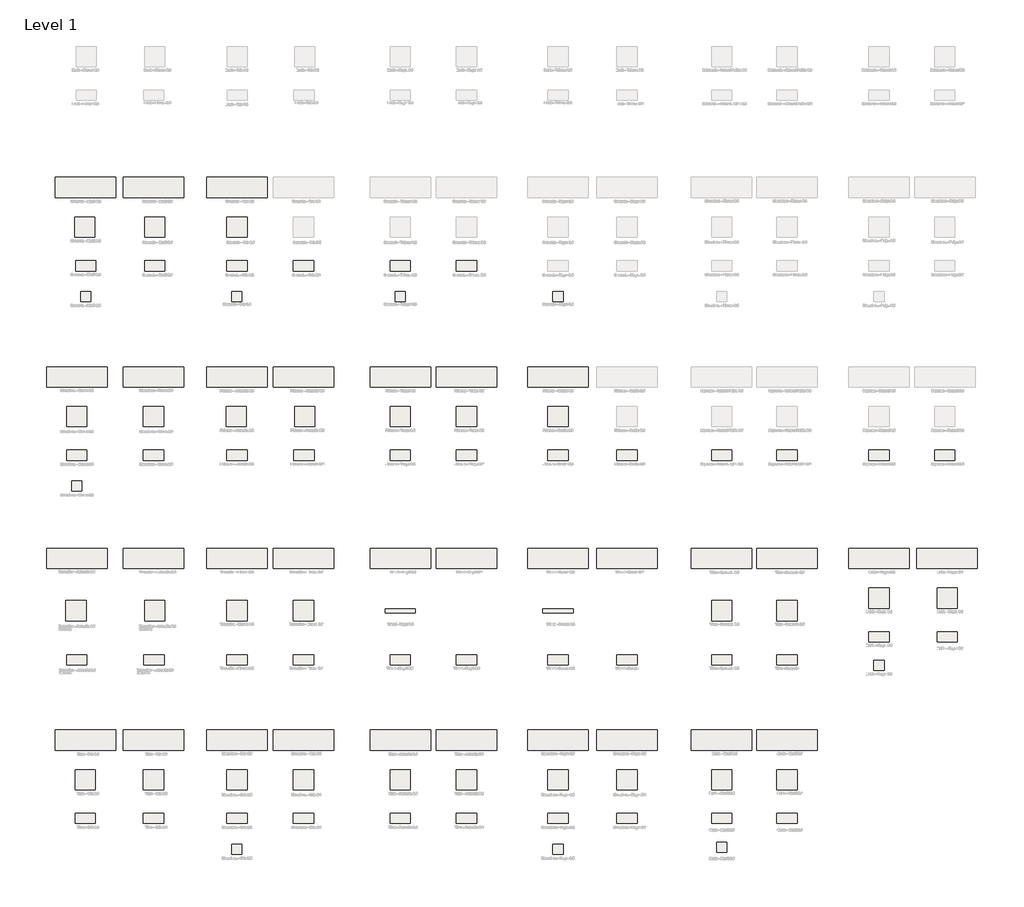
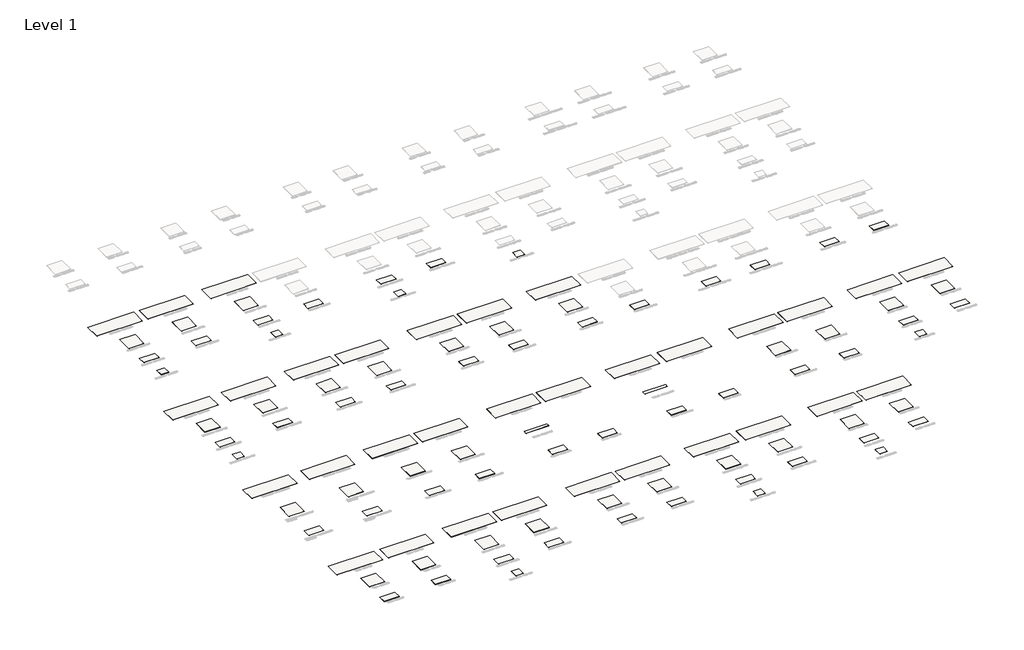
# One storey, part 1 of 80: 111 slabs.
"""IFC4 building model written with IfcOpenShell, lengths in millimetres."""

from ifc_helpers import new_model, si_unit, frame, origin, place, context, project, spatial, polyline, outline, extrude, element, save

model = new_model("IFC4")

# Units and contexts
model_context = context("Model", 3, world=origin())
ifc_project = project(units=[si_unit("LENGTHUNIT", "METRE", prefix="MILLI")], contexts=[model_context])

# Site, building, storey
site = spatial("IfcSite", under=ifc_project)
building = spatial("IfcBuilding", under=site)
storey = spatial("IfcBuildingStorey", under=building, Name="Level 1", Elevation=0.0)

# Slabs
placement = place(None, origin())
element("IfcSlab", 1, ObjectType="100x300 Coverlam_Concrete Marfil 5.6", at=placement, inside=storey, context=model_context, shape_type="SweptSolid", body=[
    extrude(outline(polyline([(-24145.5376464, 11990.4715713), (-21145.5376464, 11990.4715713), (-21145.5376464, 10990.4715713), (-24145.5376464, 10990.4715713), (-24145.5376464, 11990.4715713)])), frame((0.0, 0.0, -5.6), z_axis=(0.0, 0.0, 1.0), x_axis=(1.0, 0.0, 0.0)), (0.0, 0.0, 1.0), 5.6),
])
element("IfcSlab", 2, ObjectType="100x100 Coverlam_Concrete Marfil 5.6", at=placement, inside=storey, context=model_context, shape_type="SweptSolid", body=[
    extrude(outline(polyline([(-23083.4563631, 10025.1445285), (-22083.4563631, 10025.1445285), (-22083.4563631, 9025.1445285), (-23083.4563631, 9025.1445285), (-23083.4563631, 10025.1445285)])), frame((0.0, 0.0, -5.6), z_axis=(0.0, 0.0, 1.0), x_axis=(1.0, 0.0, 0.0)), (0.0, 0.0, 1.0), 5.6),
])
element("IfcSlab", 3, ObjectType="50x100 Coverlam_Concrete Marfil 5.6", at=placement, inside=storey, context=model_context, shape_type="SweptSolid", body=[
    extrude(outline(polyline([(-23083.4563631, 7853.9377666), (-22083.4563631, 7853.9377666), (-22083.4563631, 7353.9377666), (-23083.4563631, 7353.9377666), (-23083.4563631, 7853.9377666)])), frame((0.0, 0.0, -5.6), z_axis=(0.0, 0.0, 1.0), x_axis=(1.0, 0.0, 0.0)), (0.0, 0.0, 1.0), 5.6),
])
element("IfcSlab", 4, ObjectType="100x300 Coverlam_Pirineos Antracita 5.6", at=placement, inside=storey, context=model_context, shape_type="SweptSolid", body=[
    extrude(outline(polyline([(-16705.5376464, 2590.4715713), (-13705.5376464, 2590.4715713), (-13705.5376464, 1590.4715713), (-16705.5376464, 1590.4715713), (-16705.5376464, 2590.4715713)])), frame((0.0, 0.0, -5.6), z_axis=(0.0, 0.0, 1.0), x_axis=(1.0, 0.0, 0.0)), (0.0, 0.0, 1.0), 5.6),
])
element("IfcSlab", 5, ObjectType="100x100 Coverlam_Pirineos Antracita 5.6", at=placement, inside=storey, context=model_context, shape_type="SweptSolid", body=[
    extrude(outline(polyline([(-15643.4563631, 625.1445285), (-14643.4563631, 625.1445285), (-14643.4563631, -374.8554715), (-15643.4563631, -374.8554715), (-15643.4563631, 625.1445285)])), frame((0.0, 0.0, -3.5), z_axis=(0.0, 0.0, 1.0), x_axis=(1.0, 0.0, 0.0)), (0.0, 0.0, 1.0), 3.5),
])
element("IfcSlab", 6, ObjectType="50x100 Coverlam_Pirineos Antracita 5.6", at=placement, inside=storey, context=model_context, shape_type="SweptSolid", body=[
    extrude(outline(polyline([(-15683.4563631, -1546.0622334), (-14683.4563631, -1546.0622334), (-14683.4563631, -2046.0622334), (-15683.4563631, -2046.0622334), (-15683.4563631, -1546.0622334)])), frame((0.0, 0.0, -5.6), z_axis=(0.0, 0.0, 1.0), x_axis=(1.0, 0.0, 0.0)), (0.0, 0.0, 1.0), 5.6),
])
element("IfcSlab", 7, ObjectType="100x300 Coverlam_Travertino Antracita 5.6", at=placement, inside=storey, context=model_context, shape_type="SweptSolid", body=[
    extrude(outline(polyline([(-24145.5376464, -6419.6154646), (-21145.5376464, -6419.6154646), (-21145.5376464, -7419.6154646), (-24145.5376464, -7419.6154646), (-24145.5376464, -6419.6154646)])), frame((0.0, 0.0, -5.6), z_axis=(0.0, 0.0, 1.0), x_axis=(1.0, 0.0, 0.0)), (0.0, 0.0, 1.0), 5.6),
])
element("IfcSlab", 8, ObjectType="100x100 Coverlam_Travertino Antracita 5.6", at=placement, inside=storey, context=model_context, shape_type="SweptSolid", body=[
    extrude(outline(polyline([(-23083.4563631, -9006.8144507), (-22083.4563631, -9006.8144507), (-22083.4563631, -10006.8144507), (-23083.4563631, -10006.8144507), (-23083.4563631, -9006.8144507)])), frame((0.0, 0.0, -5.6), z_axis=(0.0, 0.0, 1.0), x_axis=(1.0, 0.0, 0.0)), (0.0, 0.0, 1.0), 5.6),
])
element("IfcSlab", 9, ObjectType="50x100 Coverlam_Travertino Antracita 5.6", at=placement, inside=storey, context=model_context, shape_type="SweptSolid", body=[
    extrude(outline(polyline([(-23115.7645519, -11699.1874538), (-22115.7645519, -11699.1874538), (-22115.7645519, -12199.1874538), (-23115.7645519, -12199.1874538), (-23115.7645519, -11699.1874538)])), frame((0.0, 0.0, -5.6), z_axis=(0.0, 0.0, 1.0), x_axis=(1.0, 0.0, 0.0)), (0.0, 0.0, 1.0), 5.6),
])
element("IfcSlab", 10, ObjectType="20x150 Coverlam_Wood Nogal 3.5", at=placement, inside=storey, context=model_context, shape_type="SweptSolid", body=[
    extrude(outline(polyline([(-11155.5376464, -9406.8144507), (-9655.5376464, -9406.8144507), (-9655.5376464, -9606.8144507), (-11155.5376464, -9606.8144507), (-11155.5376464, -9406.8144507)])), frame((0.0, 0.0, -3.5), z_axis=(0.0, 0.0, 1.0), x_axis=(1.0, 0.0, 0.0)), (0.0, 0.0, 1.0), 3.5),
])
element("IfcSlab", 11, ObjectType="100x300 Coverlam_Concrete Marfil 3.5", at=placement, inside=storey, context=model_context, shape_type="SweptSolid", body=[
    extrude(outline(polyline([(-27505.5376464, 11990.4715713), (-24505.5376464, 11990.4715713), (-24505.5376464, 10990.4715713), (-27505.5376464, 10990.4715713), (-27505.5376464, 11990.4715713)])), frame((0.0, 0.0, -3.5), z_axis=(0.0, 0.0, 1.0), x_axis=(1.0, 0.0, 0.0)), (0.0, 0.0, 1.0), 3.5),
])
element("IfcSlab", 12, ObjectType="100x100 Coverlam_Concrete Marfil 3.5", at=placement, inside=storey, context=model_context, shape_type="SweptSolid", body=[
    extrude(outline(polyline([(-26543.4563631, 10025.1445285), (-25543.4563631, 10025.1445285), (-25543.4563631, 9025.1445285), (-26543.4563631, 9025.1445285), (-26543.4563631, 10025.1445285)])), frame((0.0, 0.0, -3.5), z_axis=(0.0, 0.0, 1.0), x_axis=(1.0, 0.0, 0.0)), (0.0, 0.0, 1.0), 3.5),
])
element("IfcSlab", 13, ObjectType="50x100 Coverlam_Concrete Marfil 3.5", at=placement, inside=storey, context=model_context, shape_type="SweptSolid", body=[
    extrude(outline(polyline([(-26505.5376464, 7853.9377666), (-25505.5376464, 7853.9377666), (-25505.5376464, 7353.9377666), (-26505.5376464, 7353.9377666), (-26505.5376464, 7853.9377666)])), frame((0.0, 0.0, -3.5), z_axis=(0.0, 0.0, 1.0), x_axis=(1.0, 0.0, 0.0)), (0.0, 0.0, 1.0), 3.5),
])
element("IfcSlab", 14, ObjectType="50x50 Coverlam_Concrete Marfil 3.5", at=placement, inside=storey, context=model_context, shape_type="SweptSolid", body=[
    extrude(outline(polyline([(-26255.5376464, 6323.9377666), (-25755.5376464, 6323.9377666), (-25755.5376464, 5823.9377666), (-26255.5376464, 5823.9377666), (-26255.5376464, 6323.9377666)])), frame((0.0, 0.0, -3.5), z_axis=(0.0, 0.0, 1.0), x_axis=(1.0, 0.0, 0.0)), (0.0, 0.0, 1.0), 3.5),
])
element("IfcSlab", 15, ObjectType="100x300 Coverlam_Pirineos Antracita 3.5", at=placement, inside=storey, context=model_context, shape_type="SweptSolid", body=[
    extrude(outline(polyline([(-20005.5376464, 2590.4715713), (-17005.5376464, 2590.4715713), (-17005.5376464, 1590.4715713), (-20005.5376464, 1590.4715713), (-20005.5376464, 2590.4715713)])), frame((0.0, 0.0, -3.5), z_axis=(0.0, 0.0, 1.0), x_axis=(1.0, 0.0, 0.0)), (0.0, 0.0, 1.0), 3.5),
])
element("IfcSlab", 16, ObjectType="100x100 Coverlam_Pirineos Antracita 3.5", at=placement, inside=storey, context=model_context, shape_type="SweptSolid", body=[
    extrude(outline(polyline([(-19043.4563631, 625.1445285), (-18043.4563631, 625.1445285), (-18043.4563631, -374.8554715), (-19043.4563631, -374.8554715), (-19043.4563631, 625.1445285)])), frame((0.0, 0.0, -3.5), z_axis=(0.0, 0.0, 1.0), x_axis=(1.0, 0.0, 0.0)), (0.0, 0.0, 1.0), 3.5),
])
element("IfcSlab", 17, ObjectType="50x100 Coverlam_Pirineos Antracita 3.5", at=placement, inside=storey, context=model_context, shape_type="SweptSolid", body=[
    extrude(outline(polyline([(-19005.5376464, -1546.0622334), (-18005.5376464, -1546.0622334), (-18005.5376464, -2046.0622334), (-19005.5376464, -2046.0622334), (-19005.5376464, -1546.0622334)])), frame((0.0, 0.0, -3.5), z_axis=(0.0, 0.0, 1.0), x_axis=(1.0, 0.0, 0.0)), (0.0, 0.0, 1.0), 3.5),
])
element("IfcSlab", 18, ObjectType="100x300 Coverlam_Travertino Antracita 3.5", at=placement, inside=storey, context=model_context, shape_type="SweptSolid", body=[
    extrude(outline(polyline([(-27945.5376464, -6419.6154646), (-24945.5376464, -6419.6154646), (-24945.5376464, -7419.6154646), (-27945.5376464, -7419.6154646), (-27945.5376464, -6419.6154646)])), frame((0.0, 0.0, -3.5), z_axis=(0.0, 0.0, 1.0), x_axis=(1.0, 0.0, 0.0)), (0.0, 0.0, 1.0), 3.5),
])
element("IfcSlab", 19, ObjectType="100x100 Coverlam_Travertino Antracita 3.5", at=placement, inside=storey, context=model_context, shape_type="SweptSolid", body=[
    extrude(outline(polyline([(-26983.4563631, -9006.8144507), (-25983.4563631, -9006.8144507), (-25983.4563631, -10006.8144507), (-26983.4563631, -10006.8144507), (-26983.4563631, -9006.8144507)])), frame((0.0, 0.0, -3.5), z_axis=(0.0, 0.0, 1.0), x_axis=(1.0, 0.0, 0.0)), (0.0, 0.0, 1.0), 3.5),
])
element("IfcSlab", 20, ObjectType="50x100 Coverlam_Travertino Antracita 3.5", at=placement, inside=storey, context=model_context, shape_type="SweptSolid", body=[
    extrude(outline(polyline([(-26945.5376464, -11699.1874538), (-25945.5376464, -11699.1874538), (-25945.5376464, -12199.1874538), (-26945.5376464, -12199.1874538), (-26945.5376464, -11699.1874538)])), frame((0.0, 0.0, -3.5), z_axis=(0.0, 0.0, 1.0), x_axis=(1.0, 0.0, 0.0)), (0.0, 0.0, 1.0), 3.5),
])
element("IfcSlab", 21, ObjectType="100x300 Coverlam_Concrete Gris 3.5", at=placement, inside=storey, context=model_context, shape_type="SweptSolid", body=[
    extrude(outline(polyline([(-20005.5376464, 11990.4715713), (-17005.5376464, 11990.4715713), (-17005.5376464, 10990.4715713), (-20005.5376464, 10990.4715713), (-20005.5376464, 11990.4715713)])), frame((0.0, 0.0, -3.5), z_axis=(0.0, 0.0, 1.0), x_axis=(1.0, 0.0, 0.0)), (0.0, 0.0, 1.0), 3.5),
])
element("IfcSlab", 22, ObjectType="100x100 Coverlam_Concrete Gris 3.5", at=placement, inside=storey, context=model_context, shape_type="SweptSolid", body=[
    extrude(outline(polyline([(-19005.5376464, 10025.1445285), (-18005.5376464, 10025.1445285), (-18005.5376464, 9025.1445285), (-19005.5376464, 9025.1445285), (-19005.5376464, 10025.1445285)])), frame((0.0, 0.0, -3.5), z_axis=(0.0, 0.0, 1.0), x_axis=(1.0, 0.0, 0.0)), (0.0, 0.0, 1.0), 3.5),
])
element("IfcSlab", 23, ObjectType="50x100 Coverlam_Concrete Gris 5.6", at=placement, inside=storey, context=model_context, shape_type="SweptSolid", body=[
    extrude(outline(polyline([(-15705.5376464, 7853.9377666), (-14705.5376464, 7853.9377666), (-14705.5376464, 7353.9377666), (-15705.5376464, 7353.9377666), (-15705.5376464, 7853.9377666)])), frame((0.0, 0.0, -5.6), z_axis=(0.0, 0.0, 1.0), x_axis=(1.0, 0.0, 0.0)), (0.0, 0.0, 1.0), 5.6),
])
element("IfcSlab", 24, ObjectType="50x100 Coverlam_Concrete Gris 3.5", at=placement, inside=storey, context=model_context, shape_type="SweptSolid", body=[
    extrude(outline(polyline([(-19005.5376464, 7853.9377666), (-18005.5376464, 7853.9377666), (-18005.5376464, 7353.9377666), (-19005.5376464, 7353.9377666), (-19005.5376464, 7853.9377666)])), frame((0.0, 0.0, -3.5), z_axis=(0.0, 0.0, 1.0), x_axis=(1.0, 0.0, 0.0)), (0.0, 0.0, 1.0), 3.5),
])
element("IfcSlab", 25, ObjectType="50x50 Coverlam_Concrete Gris 3.5", at=placement, inside=storey, context=model_context, shape_type="SweptSolid", body=[
    extrude(outline(polyline([(-18755.5376464, 6323.9377666), (-18255.5376464, 6323.9377666), (-18255.5376464, 5823.9377666), (-18755.5376464, 5823.9377666), (-18755.5376464, 6323.9377666)])), frame((0.0, 0.0, -3.5), z_axis=(0.0, 0.0, 1.0), x_axis=(1.0, 0.0, 0.0)), (0.0, 0.0, 1.0), 3.5),
])
element("IfcSlab", 26, ObjectType="50x100 Coverlam_Concrete Tabaco 5.6", at=placement, inside=storey, context=model_context, shape_type="SweptSolid", body=[
    extrude(outline(polyline([(-7625.5376464, 7853.9377666), (-6625.5376464, 7853.9377666), (-6625.5376464, 7353.9377666), (-7625.5376464, 7353.9377666), (-7625.5376464, 7853.9377666)])), frame((0.0, 0.0, -5.6), z_axis=(0.0, 0.0, 1.0), x_axis=(1.0, 0.0, 0.0)), (0.0, 0.0, 1.0), 5.6),
])
element("IfcSlab", 27, ObjectType="50x100 Coverlam_Concrete Tabaco 3.5", at=placement, inside=storey, context=model_context, shape_type="SweptSolid", body=[
    extrude(outline(polyline([(-10905.5376464, 7853.9377666), (-9905.5376464, 7853.9377666), (-9905.5376464, 7353.9377666), (-10905.5376464, 7353.9377666), (-10905.5376464, 7853.9377666)])), frame((0.0, 0.0, -3.5), z_axis=(0.0, 0.0, 1.0), x_axis=(1.0, 0.0, 0.0)), (0.0, 0.0, 1.0), 3.5),
])
element("IfcSlab", 28, ObjectType="50x50 Coverlam_Concrete Tabaco 3.5", at=placement, inside=storey, context=model_context, shape_type="SweptSolid", body=[
    extrude(outline(polyline([(-10655.5376464, 6323.9377666), (-10155.5376464, 6323.9377666), (-10155.5376464, 5823.9377666), (-10655.5376464, 5823.9377666), (-10655.5376464, 6323.9377666)])), frame((0.0, 0.0, -3.5), z_axis=(0.0, 0.0, 1.0), x_axis=(1.0, 0.0, 0.0)), (0.0, 0.0, 1.0), 3.5),
])
element("IfcSlab", 29, ObjectType="50x50 Coverlam_Concrete Negro 3.5", at=placement, inside=storey, context=model_context, shape_type="SweptSolid", body=[
    extrude(outline(polyline([(-2835.5376464, 6323.9377666), (-2335.5376464, 6323.9377666), (-2335.5376464, 5823.9377666), (-2835.5376464, 5823.9377666), (-2835.5376464, 6323.9377666)])), frame((0.0, 0.0, -3.5), z_axis=(0.0, 0.0, 1.0), x_axis=(1.0, 0.0, 0.0)), (0.0, 0.0, 1.0), 3.5),
])
element("IfcSlab", 30, ObjectType="100x300 Coverlam_Óxido Marfil 3.5", at=placement, inside=storey, context=model_context, shape_type="SweptSolid", body=[
    extrude(outline(polyline([(4034.4623536, -15429.6154646), (7034.4623536, -15429.6154646), (7034.4623536, -16429.6154646), (4034.4623536, -16429.6154646), (4034.4623536, -15429.6154646)])), frame((0.0, 0.0, -3.5), z_axis=(0.0, 0.0, 1.0), x_axis=(1.0, 0.0, 0.0)), (0.0, 0.0, 1.0), 3.5),
])
element("IfcSlab", 31, ObjectType="100x100 Coverlam_Óxido Marfil 3.5", at=placement, inside=storey, context=model_context, shape_type="SweptSolid", body=[
    extrude(outline(polyline([(5034.4623536, -17394.9425074), (6034.4623536, -17394.9425074), (6034.4623536, -18394.9425074), (5034.4623536, -18394.9425074), (5034.4623536, -17394.9425074)])), frame((0.0, 0.0, -3.5), z_axis=(0.0, 0.0, 1.0), x_axis=(1.0, 0.0, 0.0)), (0.0, 0.0, 1.0), 3.5),
])
element("IfcSlab", 32, ObjectType="100x50 Coverlam_Óxido Marfil 3.5", at=placement, inside=storey, context=model_context, shape_type="SweptSolid", body=[
    extrude(outline(polyline([(5034.4623536, -19564.957023), (6034.4623536, -19564.957023), (6034.4623536, -20064.957023), (5034.4623536, -20064.957023), (5034.4623536, -19564.957023)])), frame((0.0, 0.0, -3.5), z_axis=(0.0, 0.0, 1.0), x_axis=(1.0, 0.0, 0.0)), (0.0, 0.0, 1.0), 3.5),
])
element("IfcSlab", 33, ObjectType="100x300 Coverlam_Limestone Negro 3.5", at=placement, inside=storey, context=model_context, shape_type="SweptSolid", body=[
    extrude(outline(polyline([(-4085.5376464, -15429.6154646), (-1085.5376464, -15429.6154646), (-1085.5376464, -16429.6154646), (-4085.5376464, -16429.6154646), (-4085.5376464, -15429.6154646)])), frame((0.0, 0.0, -3.5), z_axis=(0.0, 0.0, 1.0), x_axis=(1.0, 0.0, 0.0)), (0.0, 0.0, 1.0), 3.5),
])
element("IfcSlab", 34, ObjectType="100x100 Coverlam_Limestone Negro 3.5", at=placement, inside=storey, context=model_context, shape_type="SweptSolid", body=[
    extrude(outline(polyline([(-3085.5376464, -17394.9425074), (-2085.5376464, -17394.9425074), (-2085.5376464, -18394.9425074), (-3085.5376464, -18394.9425074), (-3085.5376464, -17394.9425074)])), frame((0.0, 0.0, -3.5), z_axis=(0.0, 0.0, 1.0), x_axis=(1.0, 0.0, 0.0)), (0.0, 0.0, 1.0), 3.5),
])
element("IfcSlab", 35, ObjectType="100x50 Coverlam_Limestone Negro 3.5", at=placement, inside=storey, context=model_context, shape_type="SweptSolid", body=[
    extrude(outline(polyline([(-3085.5376464, -19566.1492694), (-2085.5376464, -19566.1492694), (-2085.5376464, -20066.1492694), (-3085.5376464, -20066.1492694), (-3085.5376464, -19566.1492694)])), frame((0.0, 0.0, -3.5), z_axis=(0.0, 0.0, 1.0), x_axis=(1.0, 0.0, 0.0)), (0.0, 0.0, 1.0), 3.5),
])
element("IfcSlab", 36, ObjectType="50x50 Coverlam_Limestone Negro 3.5", at=placement, inside=storey, context=model_context, shape_type="SweptSolid", body=[
    extrude(outline(polyline([(-2835.5376464, -21096.1492694), (-2335.5376464, -21096.1492694), (-2335.5376464, -21596.1492694), (-2835.5376464, -21596.1492694), (-2835.5376464, -21096.1492694)])), frame((0.0, 0.0, -3.5), z_axis=(0.0, 0.0, 1.0), x_axis=(1.0, 0.0, 0.0)), (0.0, 0.0, 1.0), 3.5),
])
element("IfcSlab", 37, ObjectType="100x300 Coverlam_Óxido Marfil 5.6", at=placement, inside=storey, context=model_context, shape_type="SweptSolid", body=[
    extrude(outline(polyline([(7274.4623536, -15429.6154646), (10274.4623536, -15429.6154646), (10274.4623536, -16429.6154646), (7274.4623536, -16429.6154646), (7274.4623536, -15429.6154646)])), frame((0.0, 0.0, -5.6), z_axis=(0.0, 0.0, 1.0), x_axis=(1.0, 0.0, 0.0)), (0.0, 0.0, 1.0), 5.6),
])
element("IfcSlab", 38, ObjectType="100x100 Coverlam_Óxido Marfil 5.6", at=placement, inside=storey, context=model_context, shape_type="SweptSolid", body=[
    extrude(outline(polyline([(8274.4623536, -17394.9425074), (9274.4623536, -17394.9425074), (9274.4623536, -18394.9425074), (8274.4623536, -18394.9425074), (8274.4623536, -17394.9425074)])), frame((0.0, 0.0, -5.6), z_axis=(0.0, 0.0, 1.0), x_axis=(1.0, 0.0, 0.0)), (0.0, 0.0, 1.0), 5.6),
])
element("IfcSlab", 39, ObjectType="100x50 Coverlam_Óxido Marfil 5.6", at=placement, inside=storey, context=model_context, shape_type="SweptSolid", body=[
    extrude(outline(polyline([(8274.4623536, -19564.957023), (9274.4623536, -19564.957023), (9274.4623536, -20064.957023), (8274.4623536, -20064.957023), (8274.4623536, -19564.957023)])), frame((0.0, 0.0, -5.6), z_axis=(0.0, 0.0, 1.0), x_axis=(1.0, 0.0, 0.0)), (0.0, 0.0, 1.0), 5.6),
])
element("IfcSlab", 40, ObjectType="50x50 Coverlam_Óxido Marfil 3.5", at=placement, inside=storey, context=model_context, shape_type="SweptSolid", body=[
    extrude(outline(polyline([(5284.4623536, -20986.5246221), (5784.4623536, -20986.5246221), (5784.4623536, -21486.5246221), (5284.4623536, -21486.5246221), (5284.4623536, -20986.5246221)])), frame((0.0, 0.0, -3.5), z_axis=(0.0, 0.0, 1.0), x_axis=(1.0, 0.0, 0.0)), (0.0, 0.0, 1.0), 3.5),
])
element("IfcSlab", 41, ObjectType="100x300 Coverlam_Óxido Negro 5.6", at=placement, inside=storey, context=model_context, shape_type="SweptSolid", body=[
    extrude(outline(polyline([(15214.4623536, -6419.6154646), (18214.4623536, -6419.6154646), (18214.4623536, -7419.6154646), (15214.4623536, -7419.6154646), (15214.4623536, -6419.6154646)])), frame((0.0, 0.0, -5.6), z_axis=(0.0, 0.0, 1.0), x_axis=(1.0, 0.0, 0.0)), (0.0, 0.0, 1.0), 5.6),
])
element("IfcSlab", 42, ObjectType="100x100 Coverlam_Óxido Negro 5.6", at=placement, inside=storey, context=model_context, shape_type="SweptSolid", body=[
    extrude(outline(polyline([(16214.4623536, -8384.9425074), (17214.4623536, -8384.9425074), (17214.4623536, -9384.9425074), (16214.4623536, -9384.9425074), (16214.4623536, -8384.9425074)])), frame((0.0, 0.0, -5.6), z_axis=(0.0, 0.0, 1.0), x_axis=(1.0, 0.0, 0.0)), (0.0, 0.0, 1.0), 5.6),
])
element("IfcSlab", 43, ObjectType="100x50 Coverlam_Óxido Negro 5.6", at=placement, inside=storey, context=model_context, shape_type="SweptSolid", body=[
    extrude(outline(polyline([(16214.4623536, -10554.957023), (17214.4623536, -10554.957023), (17214.4623536, -11054.957023), (16214.4623536, -11054.957023), (16214.4623536, -10554.957023)])), frame((0.0, 0.0, -5.6), z_axis=(0.0, 0.0, 1.0), x_axis=(1.0, 0.0, 0.0)), (0.0, 0.0, 1.0), 5.6),
])
element("IfcSlab", 44, ObjectType="100x300 Coverlam_Óxido Negro 3.5", at=placement, inside=storey, context=model_context, shape_type="SweptSolid", body=[
    extrude(outline(polyline([(11834.4623536, -6419.6154646), (14834.4623536, -6419.6154646), (14834.4623536, -7419.6154646), (11834.4623536, -7419.6154646), (11834.4623536, -6419.6154646)])), frame((0.0, 0.0, -3.5), z_axis=(0.0, 0.0, 1.0), x_axis=(1.0, 0.0, 0.0)), (0.0, 0.0, 1.0), 3.5),
])
element("IfcSlab", 45, ObjectType="100x100 Coverlam_Óxido Negro 3.5", at=placement, inside=storey, context=model_context, shape_type="SweptSolid", body=[
    extrude(outline(polyline([(12834.4623536, -8384.9425074), (13834.4623536, -8384.9425074), (13834.4623536, -9384.9425074), (12834.4623536, -9384.9425074), (12834.4623536, -8384.9425074)])), frame((0.0, 0.0, -3.5), z_axis=(0.0, 0.0, 1.0), x_axis=(1.0, 0.0, 0.0)), (0.0, 0.0, 1.0), 3.5),
])
element("IfcSlab", 46, ObjectType="100x50 Coverlam_Óxido Negro 3.5", at=placement, inside=storey, context=model_context, shape_type="SweptSolid", body=[
    extrude(outline(polyline([(12834.4623536, -10554.957023), (13834.4623536, -10554.957023), (13834.4623536, -11054.957023), (12834.4623536, -11054.957023), (12834.4623536, -10554.957023)])), frame((0.0, 0.0, -3.5), z_axis=(0.0, 0.0, 1.0), x_axis=(1.0, 0.0, 0.0)), (0.0, 0.0, 1.0), 3.5),
])
element("IfcSlab", 47, ObjectType="50x50 Coverlam_Óxido Negro 3.5", at=placement, inside=storey, context=model_context, shape_type="SweptSolid", body=[
    extrude(outline(polyline([(13084.4623536, -11976.5246221), (13584.4623536, -11976.5246221), (13584.4623536, -12476.5246221), (13084.4623536, -12476.5246221), (13084.4623536, -11976.5246221)])), frame((0.0, 0.0, -3.5), z_axis=(0.0, 0.0, 1.0), x_axis=(1.0, 0.0, 0.0)), (0.0, 0.0, 1.0), 3.5),
])
element("IfcSlab", 48, ObjectType="100x300 Coverlam_Limestone Negro 5.6", at=placement, inside=storey, context=model_context, shape_type="SweptSolid", body=[
    extrude(outline(polyline([(-665.5376464, -15429.6154646), (2334.4623536, -15429.6154646), (2334.4623536, -16429.6154646), (-665.5376464, -16429.6154646), (-665.5376464, -15429.6154646)])), frame((0.0, 0.0, -5.6), z_axis=(0.0, 0.0, 1.0), x_axis=(1.0, 0.0, 0.0)), (0.0, 0.0, 1.0), 5.6),
])
element("IfcSlab", 49, ObjectType="100x100 Coverlam_Limestone Negro 5.6", at=placement, inside=storey, context=model_context, shape_type="SweptSolid", body=[
    extrude(outline(polyline([(334.4623536, -17394.9425074), (1334.4623536, -17394.9425074), (1334.4623536, -18394.9425074), (334.4623536, -18394.9425074), (334.4623536, -17394.9425074)])), frame((0.0, 0.0, -5.6), z_axis=(0.0, 0.0, 1.0), x_axis=(1.0, 0.0, 0.0)), (0.0, 0.0, 1.0), 5.6),
])
element("IfcSlab", 50, ObjectType="100x50 Coverlam_Limestone Negro 5.6", at=placement, inside=storey, context=model_context, shape_type="SweptSolid", body=[
    extrude(outline(polyline([(334.4623536, -19564.957023), (1334.4623536, -19564.957023), (1334.4623536, -20064.957023), (334.4623536, -20064.957023), (334.4623536, -19564.957023)])), frame((0.0, 0.0, -5.6), z_axis=(0.0, 0.0, 1.0), x_axis=(1.0, 0.0, 0.0)), (0.0, 0.0, 1.0), 5.6),
])
element("IfcSlab", 51, ObjectType="100x300 Coverlam_Limestone Gris 5.6", at=placement, inside=storey, context=model_context, shape_type="SweptSolid", body=[
    extrude(outline(polyline([(-16705.5376464, -15429.6154646), (-13705.5376464, -15429.6154646), (-13705.5376464, -16429.6154646), (-16705.5376464, -16429.6154646), (-16705.5376464, -15429.6154646)])), frame((0.0, 0.0, -5.6), z_axis=(0.0, 0.0, 1.0), x_axis=(1.0, 0.0, 0.0)), (0.0, 0.0, 1.0), 5.6),
])
element("IfcSlab", 52, ObjectType="100x100 Coverlam_Limestone Gris 5.6", at=placement, inside=storey, context=model_context, shape_type="SweptSolid", body=[
    extrude(outline(polyline([(-15705.5376464, -17394.9425074), (-14705.5376464, -17394.9425074), (-14705.5376464, -18394.9425074), (-15705.5376464, -18394.9425074), (-15705.5376464, -17394.9425074)])), frame((0.0, 0.0, -5.6), z_axis=(0.0, 0.0, 1.0), x_axis=(1.0, 0.0, 0.0)), (0.0, 0.0, 1.0), 5.6),
])
element("IfcSlab", 53, ObjectType="100x50 Coverlam_Limestone Gris 5.6", at=placement, inside=storey, context=model_context, shape_type="SweptSolid", body=[
    extrude(outline(polyline([(-15705.5376464, -19564.957023), (-14705.5376464, -19564.957023), (-14705.5376464, -20064.957023), (-15705.5376464, -20064.957023), (-15705.5376464, -19564.957023)])), frame((0.0, 0.0, -5.6), z_axis=(0.0, 0.0, 1.0), x_axis=(1.0, 0.0, 0.0)), (0.0, 0.0, 1.0), 5.6),
])
element("IfcSlab", 54, ObjectType="100x300 Coverlam_Limestone Gris 3.5", at=placement, inside=storey, context=model_context, shape_type="SweptSolid", body=[
    extrude(outline(polyline([(-20005.5376464, -15429.6154646), (-17005.5376464, -15429.6154646), (-17005.5376464, -16429.6154646), (-20005.5376464, -16429.6154646), (-20005.5376464, -15429.6154646)])), frame((0.0, 0.0, -3.5), z_axis=(0.0, 0.0, 1.0), x_axis=(1.0, 0.0, 0.0)), (0.0, 0.0, 1.0), 3.5),
])
element("IfcSlab", 55, ObjectType="100x100 Coverlam_Limestone Gris 3.5", at=placement, inside=storey, context=model_context, shape_type="SweptSolid", body=[
    extrude(outline(polyline([(-19005.5376464, -17394.9425074), (-18005.5376464, -17394.9425074), (-18005.5376464, -18394.9425074), (-19005.5376464, -18394.9425074), (-19005.5376464, -17394.9425074)])), frame((0.0, 0.0, -3.5), z_axis=(0.0, 0.0, 1.0), x_axis=(1.0, 0.0, 0.0)), (0.0, 0.0, 1.0), 3.5),
])
element("IfcSlab", 56, ObjectType="100x50 Coverlam_Limestone Negro 3.5", at=placement, inside=storey, context=model_context, shape_type="SweptSolid", body=[
    extrude(outline(polyline([(-19005.5376464, -19566.1492694), (-18005.5376464, -19566.1492694), (-18005.5376464, -20066.1492694), (-19005.5376464, -20066.1492694), (-19005.5376464, -19566.1492694)])), frame((0.0, 0.0, -3.5), z_axis=(0.0, 0.0, 1.0), x_axis=(1.0, 0.0, 0.0)), (0.0, 0.0, 1.0), 3.5),
])
element("IfcSlab", 57, ObjectType="50x50 Coverlam_Limestone Gris 3.5", at=placement, inside=storey, context=model_context, shape_type="SweptSolid", body=[
    extrude(outline(polyline([(-18755.5376464, -21096.1492694), (-18255.5376464, -21096.1492694), (-18255.5376464, -21596.1492694), (-18755.5376464, -21596.1492694), (-18755.5376464, -21096.1492694)])), frame((0.0, 0.0, -3.5), z_axis=(0.0, 0.0, 1.0), x_axis=(1.0, 0.0, 0.0)), (0.0, 0.0, 1.0), 3.5),
])
element("IfcSlab", 58, ObjectType="100x300 Coverlam_Limestone Marrón 5.6", at=placement, inside=storey, context=model_context, shape_type="SweptSolid", body=[
    extrude(outline(polyline([(-24145.5376464, 2590.4715713), (-21145.5376464, 2590.4715713), (-21145.5376464, 1590.4715713), (-24145.5376464, 1590.4715713), (-24145.5376464, 2590.4715713)])), frame((0.0, 0.0, -5.6), z_axis=(0.0, 0.0, 1.0), x_axis=(1.0, 0.0, 0.0)), (0.0, 0.0, 1.0), 5.6),
])
element("IfcSlab", 59, ObjectType="100x100 Coverlam_Limestone Marrón 5.6", at=placement, inside=storey, context=model_context, shape_type="SweptSolid", body=[
    extrude(outline(polyline([(-23145.5376464, 625.1445285), (-22145.5376464, 625.1445285), (-22145.5376464, -374.8554715), (-23145.5376464, -374.8554715), (-23145.5376464, 625.1445285)])), frame((0.0, 0.0, -5.6), z_axis=(0.0, 0.0, 1.0), x_axis=(1.0, 0.0, 0.0)), (0.0, 0.0, 1.0), 5.6),
])
element("IfcSlab", 60, ObjectType="100x50 Coverlam_Limestone Marrón 5.6", at=placement, inside=storey, context=model_context, shape_type="SweptSolid", body=[
    extrude(outline(polyline([(-23145.5376464, -1544.869987), (-22145.5376464, -1544.869987), (-22145.5376464, -2044.869987), (-23145.5376464, -2044.869987), (-23145.5376464, -1544.869987)])), frame((0.0, 0.0, -5.6), z_axis=(0.0, 0.0, 1.0), x_axis=(1.0, 0.0, 0.0)), (0.0, 0.0, 1.0), 5.6),
])
element("IfcSlab", 61, ObjectType="100x300 Coverlam_Limestone Marrón 3.5", at=placement, inside=storey, context=model_context, shape_type="SweptSolid", body=[
    extrude(outline(polyline([(-27945.5376464, 2590.4715713), (-24945.5376464, 2590.4715713), (-24945.5376464, 1590.4715713), (-27945.5376464, 1590.4715713), (-27945.5376464, 2590.4715713)])), frame((0.0, 0.0, -3.5), z_axis=(0.0, 0.0, 1.0), x_axis=(1.0, 0.0, 0.0)), (0.0, 0.0, 1.0), 3.5),
])
element("IfcSlab", 62, ObjectType="100x100 Coverlam_Limestone Marrón 3.5", at=placement, inside=storey, context=model_context, shape_type="SweptSolid", body=[
    extrude(outline(polyline([(-26945.5376464, 625.1445285), (-25945.5376464, 625.1445285), (-25945.5376464, -374.8554715), (-26945.5376464, -374.8554715), (-26945.5376464, 625.1445285)])), frame((0.0, 0.0, -3.5), z_axis=(0.0, 0.0, 1.0), x_axis=(1.0, 0.0, 0.0)), (0.0, 0.0, 1.0), 3.5),
])
element("IfcSlab", 63, ObjectType="100x50 Coverlam_Limestone Marrón 3.5", at=placement, inside=storey, context=model_context, shape_type="SweptSolid", body=[
    extrude(outline(polyline([(-26945.5376464, -1546.0622334), (-25945.5376464, -1546.0622334), (-25945.5376464, -2046.0622334), (-26945.5376464, -2046.0622334), (-26945.5376464, -1546.0622334)])), frame((0.0, 0.0, -3.5), z_axis=(0.0, 0.0, 1.0), x_axis=(1.0, 0.0, 0.0)), (0.0, 0.0, 1.0), 3.5),
])
element("IfcSlab", 64, ObjectType="50x50  Coverlam_Limestone Marrón 3.5", at=placement, inside=storey, context=model_context, shape_type="SweptSolid", body=[
    extrude(outline(polyline([(-26695.5376464, -3076.0622334), (-26195.5376464, -3076.0622334), (-26195.5376464, -3576.0622334), (-26695.5376464, -3576.0622334), (-26695.5376464, -3076.0622334)])), frame((0.0, 0.0, -3.5), z_axis=(0.0, 0.0, 1.0), x_axis=(1.0, 0.0, 0.0)), (0.0, 0.0, 1.0), 3.5),
])
element("IfcSlab", 65, ObjectType="100x300 Coverlam_Pririneos Taupe 5.6", at=placement, inside=storey, context=model_context, shape_type="SweptSolid", body=[
    extrude(outline(polyline([(-8625.5376464, 2590.4715713), (-5625.5376464, 2590.4715713), (-5625.5376464, 1590.4715713), (-8625.5376464, 1590.4715713), (-8625.5376464, 2590.4715713)])), frame((0.0, 0.0, -5.6), z_axis=(0.0, 0.0, 1.0), x_axis=(1.0, 0.0, 0.0)), (0.0, 0.0, 1.0), 5.6),
])
element("IfcSlab", 66, ObjectType="100x300 Coverlam_Pririneos Taupe 3.5", at=placement, inside=storey, context=model_context, shape_type="SweptSolid", body=[
    extrude(outline(polyline([(-11905.5376464, 2590.4715713), (-8905.5376464, 2590.4715713), (-8905.5376464, 1590.4715713), (-11905.5376464, 1590.4715713), (-11905.5376464, 2590.4715713)])), frame((0.0, 0.0, -3.5), z_axis=(0.0, 0.0, 1.0), x_axis=(1.0, 0.0, 0.0)), (0.0, 0.0, 1.0), 3.5),
])
element("IfcSlab", 67, ObjectType="100x100 Coverlam_Pririneos Taupe 5.6", at=placement, inside=storey, context=model_context, shape_type="SweptSolid", body=[
    extrude(outline(polyline([(-7625.5376464, 625.1445285), (-6625.5376464, 625.1445285), (-6625.5376464, -374.8554715), (-7625.5376464, -374.8554715), (-7625.5376464, 625.1445285)])), frame((0.0, 0.0, -5.6), z_axis=(0.0, 0.0, 1.0), x_axis=(1.0, 0.0, 0.0)), (0.0, 0.0, 1.0), 5.6),
])
element("IfcSlab", 68, ObjectType="100x100 Coverlam_Pririneos Taupe 3.5", at=placement, inside=storey, context=model_context, shape_type="SweptSolid", body=[
    extrude(outline(polyline([(-10905.5376464, 625.1445285), (-9905.5376464, 625.1445285), (-9905.5376464, -374.8554715), (-10905.5376464, -374.8554715), (-10905.5376464, 625.1445285)])), frame((0.0, 0.0, -3.5), z_axis=(0.0, 0.0, 1.0), x_axis=(1.0, 0.0, 0.0)), (0.0, 0.0, 1.0), 3.5),
])
element("IfcSlab", 69, ObjectType="50x100 Coverlam_Pririneos Taupe 5.6", at=placement, inside=storey, context=model_context, shape_type="SweptSolid", body=[
    extrude(outline(polyline([(-7625.5376464, -1546.0622334), (-6625.5376464, -1546.0622334), (-6625.5376464, -2046.0622334), (-7625.5376464, -2046.0622334), (-7625.5376464, -1546.0622334)])), frame((0.0, 0.0, -5.6), z_axis=(0.0, 0.0, 1.0), x_axis=(1.0, 0.0, 0.0)), (0.0, 0.0, 1.0), 5.6),
])
element("IfcSlab", 70, ObjectType="50x100 Coverlam_Pririneos Taupe 3.5", at=placement, inside=storey, context=model_context, shape_type="SweptSolid", body=[
    extrude(outline(polyline([(-10905.5376464, -1546.0622334), (-9905.5376464, -1546.0622334), (-9905.5376464, -2046.0622334), (-10905.5376464, -2046.0622334), (-10905.5376464, -1546.0622334)])), frame((0.0, 0.0, -3.5), z_axis=(0.0, 0.0, 1.0), x_axis=(1.0, 0.0, 0.0)), (0.0, 0.0, 1.0), 3.5),
])
element("IfcSlab", 71, ObjectType="100x300 Coverlam_Travertino Blanco 5.6", at=placement, inside=storey, context=model_context, shape_type="SweptSolid", body=[
    extrude(outline(polyline([(-16705.5376464, -6419.6154646), (-13705.5376464, -6419.6154646), (-13705.5376464, -7419.6154646), (-16705.5376464, -7419.6154646), (-16705.5376464, -6419.6154646)])), frame((0.0, 0.0, -5.6), z_axis=(0.0, 0.0, 1.0), x_axis=(1.0, 0.0, 0.0)), (0.0, 0.0, 1.0), 5.6),
])
element("IfcSlab", 72, ObjectType="100x100 Coverlam_Travertino Blanco 5.6", at=placement, inside=storey, context=model_context, shape_type="SweptSolid", body=[
    extrude(outline(polyline([(-15705.5376464, -9006.8144507), (-14705.5376464, -9006.8144507), (-14705.5376464, -10006.8144507), (-15705.5376464, -10006.8144507), (-15705.5376464, -9006.8144507)])), frame((0.0, 0.0, -5.6), z_axis=(0.0, 0.0, 1.0), x_axis=(1.0, 0.0, 0.0)), (0.0, 0.0, 1.0), 5.6),
])
element("IfcSlab", 73, ObjectType="50x100 Coverlam_Travertino Blanco 5.6", at=placement, inside=storey, context=model_context, shape_type="SweptSolid", body=[
    extrude(outline(polyline([(-15705.5376464, -11699.1874538), (-14705.5376464, -11699.1874538), (-14705.5376464, -12199.1874538), (-15705.5376464, -12199.1874538), (-15705.5376464, -11699.1874538)])), frame((0.0, 0.0, -5.6), z_axis=(0.0, 0.0, 1.0), x_axis=(1.0, 0.0, 0.0)), (0.0, 0.0, 1.0), 5.6),
])
element("IfcSlab", 74, ObjectType="100x300 Coverlam_Travertino Blanco 3.5", at=placement, inside=storey, context=model_context, shape_type="SweptSolid", body=[
    extrude(outline(polyline([(-20005.5376464, -6419.6154646), (-17005.5376464, -6419.6154646), (-17005.5376464, -7419.6154646), (-20005.5376464, -7419.6154646), (-20005.5376464, -6419.6154646)])), frame((0.0, 0.0, -3.5), z_axis=(0.0, 0.0, 1.0), x_axis=(1.0, 0.0, 0.0)), (0.0, 0.0, 1.0), 3.5),
])
element("IfcSlab", 75, ObjectType="100x100 Coverlam_Travertino Blanco 3.5", at=placement, inside=storey, context=model_context, shape_type="SweptSolid", body=[
    extrude(outline(polyline([(-19005.5376464, -9006.8144507), (-18005.5376464, -9006.8144507), (-18005.5376464, -10006.8144507), (-19005.5376464, -10006.8144507), (-19005.5376464, -9006.8144507)])), frame((0.0, 0.0, -3.5), z_axis=(0.0, 0.0, 1.0), x_axis=(1.0, 0.0, 0.0)), (0.0, 0.0, 1.0), 3.5),
])
element("IfcSlab", 76, ObjectType="50x100 Coverlam_Travertino Blanco 3.5", at=placement, inside=storey, context=model_context, shape_type="SweptSolid", body=[
    extrude(outline(polyline([(-19005.5376464, -11699.1874538), (-18005.5376464, -11699.1874538), (-18005.5376464, -12199.1874538), (-19005.5376464, -12199.1874538), (-19005.5376464, -11699.1874538)])), frame((0.0, 0.0, -3.5), z_axis=(0.0, 0.0, 1.0), x_axis=(1.0, 0.0, 0.0)), (0.0, 0.0, 1.0), 3.5),
])
element("IfcSlab", 77, ObjectType="50x100 Coverlam_Pirineos Grafito 5.6", at=placement, inside=storey, context=model_context, shape_type="SweptSolid", body=[
    extrude(outline(polyline([(334.4623536, -1546.0622334), (1334.4623536, -1546.0622334), (1334.4623536, -2046.0622334), (334.4623536, -2046.0622334), (334.4623536, -1546.0622334)])), frame((0.0, 0.0, -5.6), z_axis=(0.0, 0.0, 1.0), x_axis=(1.0, 0.0, 0.0)), (0.0, 0.0, 1.0), 5.6),
])
element("IfcSlab", 78, ObjectType="100x300 Coverlam_Pirineos Grafito 3.5", at=placement, inside=storey, context=model_context, shape_type="SweptSolid", body=[
    extrude(outline(polyline([(-4085.5376464, 2590.4715713), (-1085.5376464, 2590.4715713), (-1085.5376464, 1590.4715713), (-4085.5376464, 1590.4715713), (-4085.5376464, 2590.4715713)])), frame((0.0, 0.0, -3.5), z_axis=(0.0, 0.0, 1.0), x_axis=(1.0, 0.0, 0.0)), (0.0, 0.0, 1.0), 3.5),
])
element("IfcSlab", 79, ObjectType="100x100 Coverlam_Pirineos Grafito 3.5", at=placement, inside=storey, context=model_context, shape_type="SweptSolid", body=[
    extrude(outline(polyline([(-3085.5376464, 625.1445285), (-2085.5376464, 625.1445285), (-2085.5376464, -374.8554715), (-3085.5376464, -374.8554715), (-3085.5376464, 625.1445285)])), frame((0.0, 0.0, -3.5), z_axis=(0.0, 0.0, 1.0), x_axis=(1.0, 0.0, 0.0)), (0.0, 0.0, 1.0), 3.5),
])
element("IfcSlab", 80, ObjectType="50x100 Coverlam_Pirineos Grafito 3.5", at=placement, inside=storey, context=model_context, shape_type="SweptSolid", body=[
    extrude(outline(polyline([(-3085.5376464, -1546.0622334), (-2085.5376464, -1546.0622334), (-2085.5376464, -2046.0622334), (-3085.5376464, -2046.0622334), (-3085.5376464, -1546.0622334)])), frame((0.0, 0.0, -3.5), z_axis=(0.0, 0.0, 1.0), x_axis=(1.0, 0.0, 0.0)), (0.0, 0.0, 1.0), 3.5),
])
element("IfcSlab", 81, ObjectType="50x100 Coverlam_Supreme Pulido 5.6", at=placement, inside=storey, context=model_context, shape_type="SweptSolid", body=[
    extrude(outline(polyline([(8274.4623536, -1546.0622334), (9274.4623536, -1546.0622334), (9274.4623536, -2046.0622334), (8274.4623536, -2046.0622334), (8274.4623536, -1546.0622334)])), frame((0.0, 0.0, -5.6), z_axis=(0.0, 0.0, 1.0), x_axis=(1.0, 0.0, 0.0)), (0.0, 0.0, 1.0), 5.6),
])
element("IfcSlab", 82, ObjectType="50x100 Coverlam_Supreme Pulido 3.5", at=placement, inside=storey, context=model_context, shape_type="SweptSolid", body=[
    extrude(outline(polyline([(5034.4623536, -1546.0622334), (6034.4623536, -1546.0622334), (6034.4623536, -2046.0622334), (5034.4623536, -2046.0622334), (5034.4623536, -1546.0622334)])), frame((0.0, 0.0, -3.5), z_axis=(0.0, 0.0, 1.0), x_axis=(1.0, 0.0, 0.0)), (0.0, 0.0, 1.0), 3.5),
])
element("IfcSlab", 83, ObjectType="50x100 Coverlam_Supreme Natural 5.6", at=placement, inside=storey, context=model_context, shape_type="SweptSolid", body=[
    extrude(outline(polyline([(16094.4623536, -1546.0622334), (17094.4623536, -1546.0622334), (17094.4623536, -2046.0622334), (16094.4623536, -2046.0622334), (16094.4623536, -1546.0622334)])), frame((0.0, 0.0, -5.6), z_axis=(0.0, 0.0, 1.0), x_axis=(1.0, 0.0, 0.0)), (0.0, 0.0, 1.0), 5.6),
])
element("IfcSlab", 84, ObjectType="50x100 Coverlam_Supreme Pulido 3.5", at=placement, inside=storey, context=model_context, shape_type="SweptSolid", body=[
    extrude(outline(polyline([(12834.4623536, -1546.0622334), (13834.4623536, -1546.0622334), (13834.4623536, -2046.0622334), (12834.4623536, -2046.0622334), (12834.4623536, -1546.0622334)])), frame((0.0, 0.0, -3.5), z_axis=(0.0, 0.0, 1.0), x_axis=(1.0, 0.0, 0.0)), (0.0, 0.0, 1.0), 3.5),
])
element("IfcSlab", 85, ObjectType="100x300 Coverlam_Wood Nogal 5.6", at=placement, inside=storey, context=model_context, shape_type="SweptSolid", body=[
    extrude(outline(polyline([(-8625.5376464, -6419.6154646), (-5625.5376464, -6419.6154646), (-5625.5376464, -7419.6154646), (-8625.5376464, -7419.6154646), (-8625.5376464, -6419.6154646)])), frame((0.0, 0.0, -5.6), z_axis=(0.0, 0.0, 1.0), x_axis=(1.0, 0.0, 0.0)), (0.0, 0.0, 1.0), 5.6),
])
element("IfcSlab", 86, ObjectType="50x100 Coverlam_Wood Nogal 5.6", at=placement, inside=storey, context=model_context, shape_type="SweptSolid", body=[
    extrude(outline(polyline([(-7625.5376464, -11699.1874538), (-6625.5376464, -11699.1874538), (-6625.5376464, -12199.1874538), (-7625.5376464, -12199.1874538), (-7625.5376464, -11699.1874538)])), frame((0.0, 0.0, -5.6), z_axis=(0.0, 0.0, 1.0), x_axis=(1.0, 0.0, 0.0)), (0.0, 0.0, 1.0), 5.6),
])
element("IfcSlab", 87, ObjectType="20x150 Coverlam_Wood Cerezo 3.5", at=placement, inside=storey, context=model_context, shape_type="SweptSolid", body=[
    extrude(outline(polyline([(-3335.5376464, -9406.8144507), (-1835.5376464, -9406.8144507), (-1835.5376464, -9606.8144507), (-3335.5376464, -9606.8144507), (-3335.5376464, -9406.8144507)])), frame((0.0, 0.0, -3.5), z_axis=(0.0, 0.0, 1.0), x_axis=(1.0, 0.0, 0.0)), (0.0, 0.0, 1.0), 3.5),
])
element("IfcSlab", 88, ObjectType="100x300 Coverlam_Wood Cerezo 5.6", at=placement, inside=storey, context=model_context, shape_type="SweptSolid", body=[
    extrude(outline(polyline([(-665.5376464, -6419.6154646), (2334.4623536, -6419.6154646), (2334.4623536, -7419.6154646), (-665.5376464, -7419.6154646), (-665.5376464, -6419.6154646)])), frame((0.0, 0.0, -5.6), z_axis=(0.0, 0.0, 1.0), x_axis=(1.0, 0.0, 0.0)), (0.0, 0.0, 1.0), 5.6),
])
element("IfcSlab", 89, ObjectType="500x100 Coverlam_Wood Cerezo 5.6", at=placement, inside=storey, context=model_context, shape_type="SweptSolid", body=[
    extrude(outline(polyline([(334.4623536, -11699.1874538), (1334.4623536, -11699.1874538), (1334.4623536, -12199.1874538), (334.4623536, -12199.1874538), (334.4623536, -11699.1874538)])), frame((0.0, 0.0, -5.6), z_axis=(0.0, 0.0, 1.0), x_axis=(1.0, 0.0, 0.0)), (0.0, 0.0, 1.0), 5.6),
])
element("IfcSlab", 90, ObjectType="100X300 Coverlam_Titán Gris 5.6", at=placement, inside=storey, context=model_context, shape_type="SweptSolid", body=[
    extrude(outline(polyline([(-24145.5376464, -15429.6154646), (-21145.5376464, -15429.6154646), (-21145.5376464, -16429.6154646), (-24145.5376464, -16429.6154646), (-24145.5376464, -15429.6154646)])), frame((0.0, 0.0, -5.6), z_axis=(0.0, 0.0, 1.0), x_axis=(1.0, 0.0, 0.0)), (0.0, 0.0, 1.0), 5.6),
])
element("IfcSlab", 91, ObjectType="100X100 Coverlam_Titán Gris 5.6", at=placement, inside=storey, context=model_context, shape_type="SweptSolid", body=[
    extrude(outline(polyline([(-23145.5376464, -17394.9425074), (-22145.5376464, -17394.9425074), (-22145.5376464, -18394.9425074), (-23145.5376464, -18394.9425074), (-23145.5376464, -17394.9425074)])), frame((0.0, 0.0, -5.6), z_axis=(0.0, 0.0, 1.0), x_axis=(1.0, 0.0, 0.0)), (0.0, 0.0, 1.0), 5.6),
])
element("IfcSlab", 92, ObjectType="50X100 Coverlam_Titán Gris 5.6", at=placement, inside=storey, context=model_context, shape_type="SweptSolid", body=[
    extrude(outline(polyline([(-23145.5376464, -19566.1492694), (-22145.5376464, -19566.1492694), (-22145.5376464, -20066.1492694), (-23145.5376464, -20066.1492694), (-23145.5376464, -19566.1492694)])), frame((0.0, 0.0, -5.6), z_axis=(0.0, 0.0, 1.0), x_axis=(1.0, 0.0, 0.0)), (0.0, 0.0, 1.0), 5.6),
])
element("IfcSlab", 93, ObjectType="100X300 Coverlam_Titán Cemento 5.6", at=placement, inside=storey, context=model_context, shape_type="SweptSolid", body=[
    extrude(outline(polyline([(7274.4623536, -6419.6154646), (10274.4623536, -6419.6154646), (10274.4623536, -7419.6154646), (7274.4623536, -7419.6154646), (7274.4623536, -6419.6154646)])), frame((0.0, 0.0, -5.6), z_axis=(0.0, 0.0, 1.0), x_axis=(1.0, 0.0, 0.0)), (0.0, 0.0, 1.0), 5.6),
])
element("IfcSlab", 94, ObjectType="100X100 Coverlam_Titán Cemento 5.6", at=placement, inside=storey, context=model_context, shape_type="SweptSolid", body=[
    extrude(outline(polyline([(8274.4623536, -9006.8144507), (9274.4623536, -9006.8144507), (9274.4623536, -10006.8144507), (8274.4623536, -10006.8144507), (8274.4623536, -9006.8144507)])), frame((0.0, 0.0, -5.6), z_axis=(0.0, 0.0, 1.0), x_axis=(1.0, 0.0, 0.0)), (0.0, 0.0, 1.0), 5.6),
])
element("IfcSlab", 95, ObjectType="50X100 Coverlam_Titán Cemento 5.6", at=placement, inside=storey, context=model_context, shape_type="SweptSolid", body=[
    extrude(outline(polyline([(8274.4623536, -11699.1874538), (9274.4623536, -11699.1874538), (9274.4623536, -12199.1874538), (8274.4623536, -12199.1874538), (8274.4623536, -11699.1874538)])), frame((0.0, 0.0, -5.6), z_axis=(0.0, 0.0, 1.0), x_axis=(1.0, 0.0, 0.0)), (0.0, 0.0, 1.0), 5.6),
])
element("IfcSlab", 96, ObjectType="100X300 Coverlam_Titán Antracita 5.6", at=placement, inside=storey, context=model_context, shape_type="SweptSolid", body=[
    extrude(outline(polyline([(-8625.5376464, -15429.6154646), (-5625.5376464, -15429.6154646), (-5625.5376464, -16429.6154646), (-8625.5376464, -16429.6154646), (-8625.5376464, -15429.6154646)])), frame((0.0, 0.0, -5.6), z_axis=(0.0, 0.0, 1.0), x_axis=(1.0, 0.0, 0.0)), (0.0, 0.0, 1.0), 5.6),
])
element("IfcSlab", 97, ObjectType="100X100 Coverlam_Titán Antracita 5.6", at=placement, inside=storey, context=model_context, shape_type="SweptSolid", body=[
    extrude(outline(polyline([(-7625.5376464, -17394.9425074), (-6625.5376464, -17394.9425074), (-6625.5376464, -18394.9425074), (-7625.5376464, -18394.9425074), (-7625.5376464, -17394.9425074)])), frame((0.0, 0.0, -5.6), z_axis=(0.0, 0.0, 1.0), x_axis=(1.0, 0.0, 0.0)), (0.0, 0.0, 1.0), 5.6),
])
element("IfcSlab", 98, ObjectType="50X100 Coverlam_Titán Antracita 5.6", at=placement, inside=storey, context=model_context, shape_type="SweptSolid", body=[
    extrude(outline(polyline([(-7625.5376464, -19566.1492694), (-6625.5376464, -19566.1492694), (-6625.5376464, -20066.1492694), (-7625.5376464, -20066.1492694), (-7625.5376464, -19566.1492694)])), frame((0.0, 0.0, -5.6), z_axis=(0.0, 0.0, 1.0), x_axis=(1.0, 0.0, 0.0)), (0.0, 0.0, 1.0), 5.6),
])
element("IfcSlab", 99, ObjectType="100X300 Coverlam_Titán Antracita 3.5", at=placement, inside=storey, context=model_context, shape_type="SweptSolid", body=[
    extrude(outline(polyline([(-11905.5376464, -15429.6154646), (-8905.5376464, -15429.6154646), (-8905.5376464, -16429.6154646), (-11905.5376464, -16429.6154646), (-11905.5376464, -15429.6154646)])), frame((0.0, 0.0, -3.5), z_axis=(0.0, 0.0, 1.0), x_axis=(1.0, 0.0, 0.0)), (0.0, 0.0, 1.0), 3.5),
])
element("IfcSlab", 100, ObjectType="100X100 Coverlam_Titán Antracita 3.5", at=placement, inside=storey, context=model_context, shape_type="SweptSolid", body=[
    extrude(outline(polyline([(-10905.5376464, -17394.9425074), (-9905.5376464, -17394.9425074), (-9905.5376464, -18394.9425074), (-10905.5376464, -18394.9425074), (-10905.5376464, -17394.9425074)])), frame((0.0, 0.0, -3.5), z_axis=(0.0, 0.0, 1.0), x_axis=(1.0, 0.0, 0.0)), (0.0, 0.0, 1.0), 3.5),
])
element("IfcSlab", 101, ObjectType="50X100 Coverlam_Titán Antracita 3.5", at=placement, inside=storey, context=model_context, shape_type="SweptSolid", body=[
    extrude(outline(polyline([(-10905.5376464, -19566.1492694), (-9905.5376464, -19566.1492694), (-9905.5376464, -20066.1492694), (-10905.5376464, -20066.1492694), (-10905.5376464, -19566.1492694)])), frame((0.0, 0.0, -3.5), z_axis=(0.0, 0.0, 1.0), x_axis=(1.0, 0.0, 0.0)), (0.0, 0.0, 1.0), 3.5),
])
element("IfcSlab", 102, ObjectType="100X300 Coverlam_Titán Gris 3.5", at=placement, inside=storey, context=model_context, shape_type="SweptSolid", body=[
    extrude(outline(polyline([(-27525.5376464, -15429.6154646), (-24525.5376464, -15429.6154646), (-24525.5376464, -16429.6154646), (-27525.5376464, -16429.6154646), (-27525.5376464, -15429.6154646)])), frame((0.0, 0.0, -3.5), z_axis=(0.0, 0.0, 1.0), x_axis=(1.0, 0.0, 0.0)), (0.0, 0.0, 1.0), 3.5),
])
element("IfcSlab", 103, ObjectType="100X100 Coverlam_Titán Gris 3.5", at=placement, inside=storey, context=model_context, shape_type="SweptSolid", body=[
    extrude(outline(polyline([(-26525.5376464, -17394.9425074), (-25525.5376464, -17394.9425074), (-25525.5376464, -18394.9425074), (-26525.5376464, -18394.9425074), (-26525.5376464, -17394.9425074)])), frame((0.0, 0.0, -3.5), z_axis=(0.0, 0.0, 1.0), x_axis=(1.0, 0.0, 0.0)), (0.0, 0.0, 1.0), 3.5),
])
element("IfcSlab", 104, ObjectType="50X100 Coverlam_Titán Gris 3.5", at=placement, inside=storey, context=model_context, shape_type="SweptSolid", body=[
    extrude(outline(polyline([(-26525.5376464, -19566.1492694), (-25525.5376464, -19566.1492694), (-25525.5376464, -20066.1492694), (-26525.5376464, -20066.1492694), (-26525.5376464, -19566.1492694)])), frame((0.0, 0.0, -3.5), z_axis=(0.0, 0.0, 1.0), x_axis=(1.0, 0.0, 0.0)), (0.0, 0.0, 1.0), 3.5),
])
element("IfcSlab", 105, ObjectType="100x300 Coverlam_Wood Nogal 3.5", at=placement, inside=storey, context=model_context, shape_type="SweptSolid", body=[
    extrude(outline(polyline([(-11905.5376464, -6419.6154646), (-8905.5376464, -6419.6154646), (-8905.5376464, -7419.6154646), (-11905.5376464, -7419.6154646), (-11905.5376464, -6419.6154646)])), frame((0.0, 0.0, -3.5), z_axis=(0.0, 0.0, 1.0), x_axis=(1.0, 0.0, 0.0)), (0.0, 0.0, 1.0), 3.5),
])
element("IfcSlab", 106, ObjectType="50x100 Coverlam_Wood Nogal 3.5", at=placement, inside=storey, context=model_context, shape_type="SweptSolid", body=[
    extrude(outline(polyline([(-10905.5376464, -11699.1874538), (-9905.5376464, -11699.1874538), (-9905.5376464, -12199.1874538), (-10905.5376464, -12199.1874538), (-10905.5376464, -11699.1874538)])), frame((0.0, 0.0, -3.5), z_axis=(0.0, 0.0, 1.0), x_axis=(1.0, 0.0, 0.0)), (0.0, 0.0, 1.0), 3.5),
])
element("IfcSlab", 107, ObjectType="100x300 Coverlam_Wood Cerezo 3.5", at=placement, inside=storey, context=model_context, shape_type="SweptSolid", body=[
    extrude(outline(polyline([(-4085.5376464, -6419.6154646), (-1085.5376464, -6419.6154646), (-1085.5376464, -7419.6154646), (-4085.5376464, -7419.6154646), (-4085.5376464, -6419.6154646)])), frame((0.0, 0.0, -3.5), z_axis=(0.0, 0.0, 1.0), x_axis=(1.0, 0.0, 0.0)), (0.0, 0.0, 1.0), 3.5),
])
element("IfcSlab", 108, ObjectType="500x100 Coverlam_Wood Cerezo 3.5", at=placement, inside=storey, context=model_context, shape_type="SweptSolid", body=[
    extrude(outline(polyline([(-3085.5376464, -11699.1874538), (-2085.5376464, -11699.1874538), (-2085.5376464, -12199.1874538), (-3085.5376464, -12199.1874538), (-3085.5376464, -11699.1874538)])), frame((0.0, 0.0, -3.5), z_axis=(0.0, 0.0, 1.0), x_axis=(1.0, 0.0, 0.0)), (0.0, 0.0, 1.0), 3.5),
])
element("IfcSlab", 109, ObjectType="100X300 Coverlam_Titán Cemento 3.5", at=placement, inside=storey, context=model_context, shape_type="SweptSolid", body=[
    extrude(outline(polyline([(4034.4623536, -6419.6154646), (7034.4623536, -6419.6154646), (7034.4623536, -7419.6154646), (4034.4623536, -7419.6154646), (4034.4623536, -6419.6154646)])), frame((0.0, 0.0, -3.5), z_axis=(0.0, 0.0, 1.0), x_axis=(1.0, 0.0, 0.0)), (0.0, 0.0, 1.0), 3.5),
])
element("IfcSlab", 110, ObjectType="100X100 Coverlam_Titán Cemento 3.5", at=placement, inside=storey, context=model_context, shape_type="SweptSolid", body=[
    extrude(outline(polyline([(5034.4623536, -9006.8144507), (6034.4623536, -9006.8144507), (6034.4623536, -10006.8144507), (5034.4623536, -10006.8144507), (5034.4623536, -9006.8144507)])), frame((0.0, 0.0, -3.5), z_axis=(0.0, 0.0, 1.0), x_axis=(1.0, 0.0, 0.0)), (0.0, 0.0, 1.0), 3.5),
])
element("IfcSlab", 111, ObjectType="50X100 Coverlam_Titán Cemento 3.5", at=placement, inside=storey, context=model_context, shape_type="SweptSolid", body=[
    extrude(outline(polyline([(5034.4623536, -11699.1874538), (6034.4623536, -11699.1874538), (6034.4623536, -12199.1874538), (5034.4623536, -12199.1874538), (5034.4623536, -11699.1874538)])), frame((0.0, 0.0, -3.5), z_axis=(0.0, 0.0, 1.0), x_axis=(1.0, 0.0, 0.0)), (0.0, 0.0, 1.0), 3.5),
])

save(model, "model.ifc")
